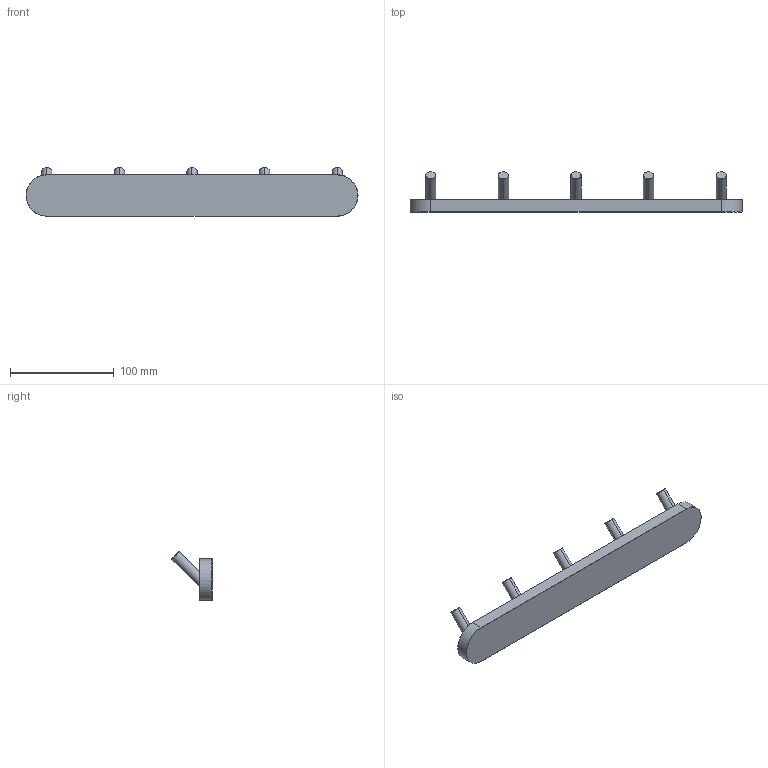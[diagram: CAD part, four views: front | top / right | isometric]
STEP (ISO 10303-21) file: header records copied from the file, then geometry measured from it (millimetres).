
FILE_DESCRIPTION(('THIS FILE CONTAINS SOME STEP INSTANCES'),'1');
FILE_NAME('har_003.stp','2015-11-25T10:03:15',('UNDEFINED'),('UNDEFINED'),'T-FLEX CAD STEP converter','T-FLEX CAD','');
FILE_SCHEMA(('CONFIG_CONTROL_DESIGN'));
Length unit declared in the file: metre
Products named in the file (1): har_003
Bounding box: 319.99 x 38.73 x 46.73 mm (x, y, z)
Volume: 162418.1 mm3; surface area: 37946.9 mm2
Topology: 1 solids, 1 shells, 49 faces, 98 edges, 56 vertices
Faces by surface type: cone 14, plane 13, cylinder 12, bspline 10
Entity records: 5258 total; most frequent: CARTESIAN_POINT 4396, ORIENTED_EDGE 196, DIRECTION 128, EDGE_CURVE 98, VERTEX_POINT 56, EDGE_LOOP 54, ADVANCED_FACE 49, FACE_OUTER_BOUND 49
